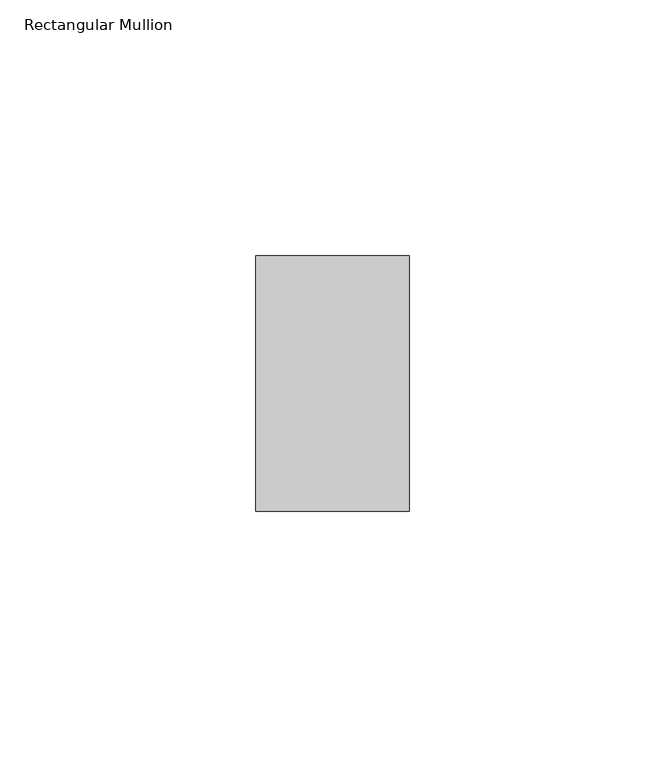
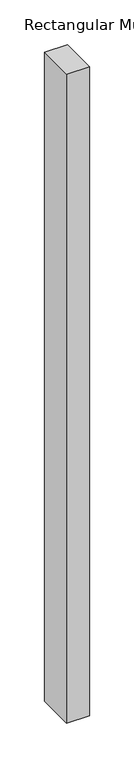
"""IFC4 building model written with IfcOpenShell, lengths in millimetres: member geometry, Rectangular Mullion : ARQ_TV_MULL_50x30mm."""

from ifc_helpers import new_model, si_unit, frame, origin, place, context, project, spatial, polyline, outline, extrude, source, transform, mapped, element, save


def rectangular_mullion_4771c1cd(model_context):
    return source(origin(), model_context, "Body", "SweptSolid", [
        extrude(outline(polyline([(0.0, 25.0), (0.0, -25.0), (-30.0, -25.0), (-30.0, 25.0), (0.0, 25.0)])), frame((0.0, 0.0, -890.2043467), z_axis=(0.0, 0.0, 1.0), x_axis=(1.0, 0.0, 0.0)), (0.0, 0.0, 1.0), 890.2043467),
    ])


if __name__ == "__main__":
    model = new_model("IFC4")
    model_context = context("Model", 3, world=origin())
    ifc_project = project(units=[si_unit("LENGTHUNIT", "METRE", prefix="MILLI")], contexts=[model_context])
    site = spatial("IfcSite", under=ifc_project)
    building = spatial("IfcBuilding", under=site)
    placement = place(None, origin())
    rectangular_mullion_shape = rectangular_mullion_4771c1cd(model_context)
    element("IfcMember", 1, ObjectType="Rectangular Mullion : ARQ_TV_MULL_50x30mm", at=placement, inside=building, context=model_context, shape_type="MappedRepresentation", body=[
        mapped(rectangular_mullion_shape, transform((0.0, 0.0, 0.0), x_axis=(1.0, 0.0, 0.0), y_axis=(0.0, 1.0, 0.0), z_axis=(0.0, 0.0, 1.0))),
    ])
    save(model, "model.ifc")
